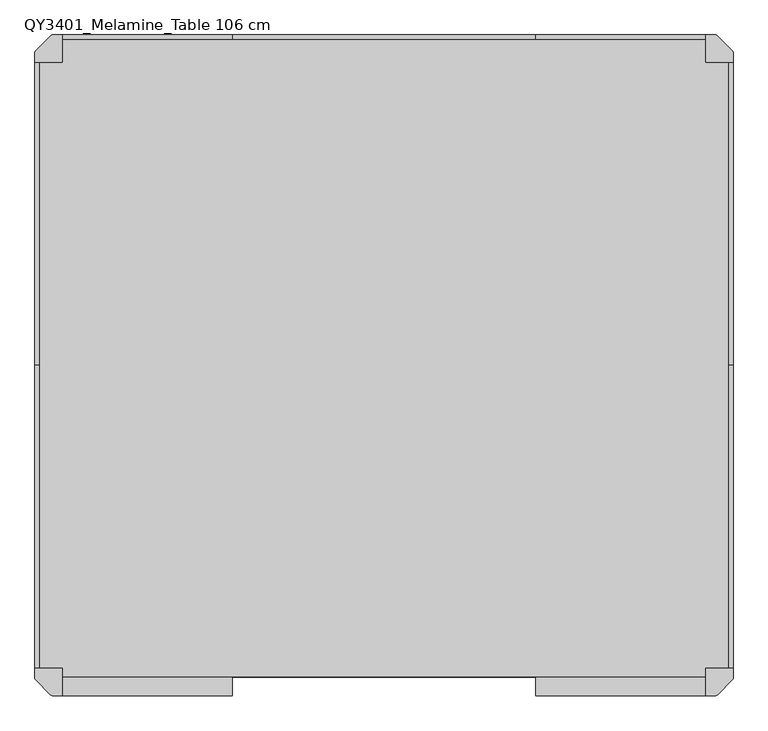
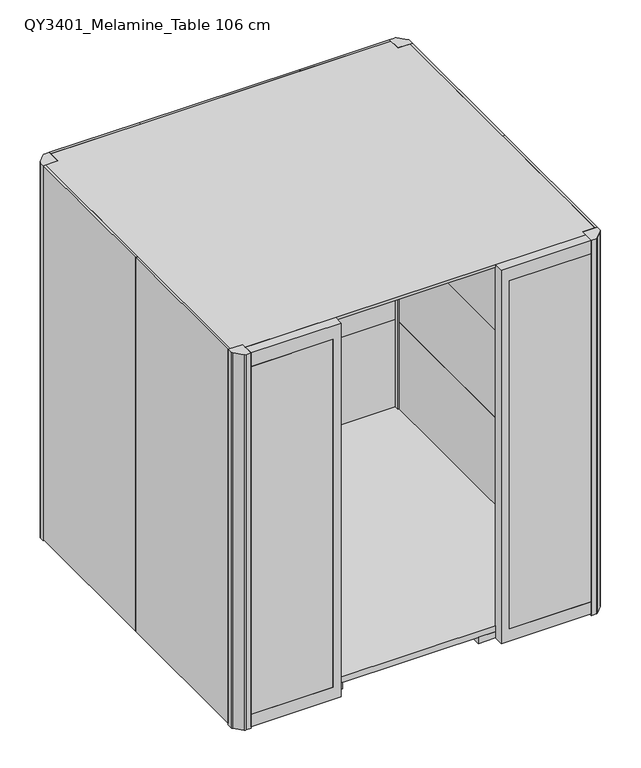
"""IFC4 building model written with IfcOpenShell, lengths in millimetres: furniture geometry, Qyos_400 : QY3401_Melamine_Table 106 cm."""

from ifc_helpers import new_model, si_unit, point, frame, frame_2d, origin, origin_with_axes, place, context, project, spatial, polyline, circle_curve, trimmed, segment, composite_curve, outline, extrude, source, transform, mapped, element, save
from ifc_brep_helpers import plane_surface, cylinder_surface, advanced_brep


def qy3401_melamine_table_106_cm_d2755881(model_context):
    return source(origin(), model_context, "Body", "SolidModel", [
        advanced_brep(
        [(853.8585356, 827.0, 0.0), (900.1414644, 827.0, 0.0), (877.0, 827.0, 0.0), (853.8585356, 827.0, 7.0), (900.1414644, 827.0, 7.0), (867.3615446, 827.0, 7.0), (886.6384554, 827.0, 7.0), (867.3615446, 827.0, 17.0), (886.6384554, 827.0, 17.0), (877.0, 827.0, 17.0)],
        [
            (0, 1, circle_curve(frame((877.0, 827.0, 0.0), z_axis=(0.0, 0.0, -1.0), x_axis=(1.0, 0.0, 0.0)), 23.1414644)),
            (1, 2),
            (2, 0),
            (1, 0, circle_curve(frame((877.0, 827.0, 0.0), z_axis=(0.0, 0.0, -1.0), x_axis=(1.0, 0.0, 0.0)), 23.1414644)),
            (3, 4, circle_curve(frame((877.0, 827.0, 7.0), z_axis=(0.0, 0.0, -1.0), x_axis=(1.0, 0.0, 0.0)), 23.1414644)),
            (4, 1),
            (0, 3),
            (4, 3, circle_curve(frame((877.0, 827.0, 7.0), z_axis=(0.0, 0.0, -1.0), x_axis=(1.0, 0.0, 0.0)), 23.1414644)),
            (5, 6, circle_curve(frame((877.0, 827.0, 7.0), z_axis=(0.0, 0.0, -1.0), x_axis=(1.0, 0.0, 0.0)), 9.6384554)),
            (6, 4),
            (3, 5),
            (6, 5, circle_curve(frame((877.0, 827.0, 7.0), z_axis=(0.0, 0.0, -1.0), x_axis=(1.0, 0.0, 0.0)), 9.6384554)),
            (7, 8, circle_curve(frame((877.0, 827.0, 17.0), z_axis=(0.0, 0.0, -1.0), x_axis=(1.0, 0.0, 0.0)), 9.6384554)),
            (8, 6),
            (5, 7),
            (8, 7, circle_curve(frame((877.0, 827.0, 17.0), z_axis=(0.0, 0.0, -1.0), x_axis=(1.0, 0.0, 0.0)), 9.6384554)),
            (9, 8),
            (7, 9),
        ],
        [
            plane_surface(frame((877.0, 827.0, 0.0), z_axis=(0.0, 0.0, -1.0), x_axis=(1.0, 0.0, 0.0))),
            cylinder_surface(frame((877.0, 827.0, 1997.4144888), z_axis=(0.0, 0.0, 1.0), x_axis=(1.0, 0.0, 0.0)), 23.1414644),
            plane_surface(frame((877.0, 827.0, 7.0), z_axis=(0.0, 0.0, 1.0), x_axis=(1.0, 0.0, 0.0))),
            cylinder_surface(frame((877.0, 827.0, 1997.4144888), z_axis=(0.0, 0.0, 1.0), x_axis=(1.0, 0.0, 0.0)), 9.6384554),
            plane_surface(frame((877.0, 827.0, 17.0), z_axis=(0.0, 0.0, 1.0), x_axis=(1.0, 0.0, 0.0))),
        ],
        [
            (0, [[1, 2, 3]]),
            (0, [[4, -3, -2]]),
            (1, [[5, 6, -1, 7]]),
            (1, [[8, -7, -4, -6]]),
            (2, [[9, 10, -5, 11]]),
            (2, [[12, -11, -8, -10]]),
            (3, [[13, 14, -9, 15]]),
            (3, [[16, -15, -12, -14]]),
            (4, [[17, -13, 18]]),
            (4, [[-18, -16, -17]]),
        ],
    ),
        extrude(outline(composite_curve([segment(trimmed(circle_curve(frame_2d((877.0, 827.0)), 23.1414644), [point((853.8585356, 827.0))], [point((900.1414644, 827.0))], False, "CARTESIAN"), True, "CONTINUOUS"), segment(trimmed(circle_curve(frame_2d((877.0, 827.0)), 23.1414644), [point((900.1414644, 827.0))], [point((853.8585356, 827.0))], False, "CARTESIAN"), True, "CONTINUOUS")], self_intersect=False)), origin_with_axes(), (0.0, 0.0, 1.0), 7.0),
        extrude(outline(composite_curve([segment(polyline([(-945.0, 890.0), (-1025.0, 890.0), (-1025.0, 917.5536246)]), True, "CONTINUOUS"), segment(trimmed(circle_curve(frame_2d((-1013.0024364, 917.3118252)), 12.0), [point((-1025.0, 917.5536246))], [point((-1021.7960176, 925.4771745))], False, "CARTESIAN"), True, "CONTINUOUS"), segment(trimmed(circle_curve(frame_2d((-443.4303831, 388.431197)), 789.2560985), [point((-1021.7960176, 925.4771745))], [point((-980.4763607, 966.7968315))], False, "CARTESIAN"), True, "CONTINUOUS"), segment(trimmed(circle_curve(frame_2d((-972.3110114, 958.0032502)), 12.0), [point((-980.4763607, 966.7968315))], [point((-972.5902872, 970.0))], False, "CARTESIAN"), True, "CONTINUOUS"), segment(polyline([(-972.5902872, 970.0), (-945.0, 970.0), (-945.0, 890.0)]), True, "CONTINUOUS")], self_intersect=False)), origin_with_axes(), (0.0, 0.0, 1.0), 2202.1),
        extrude(outline(composite_curve([segment(polyline([(945.0, 890.0), (945.0, 970.0), (972.5536246, 970.0)]), True, "CONTINUOUS"), segment(trimmed(circle_curve(frame_2d((972.3118252, 958.0024364)), 12.0), [point((972.5536246, 970.0))], [point((980.4771745, 966.7960176))], False, "CARTESIAN"), True, "CONTINUOUS"), segment(trimmed(circle_curve(frame_2d((443.431197, 388.4303831)), 789.2560985), [point((980.4771745, 966.7960176))], [point((1021.7968315, 925.4763607))], False, "CARTESIAN"), True, "CONTINUOUS"), segment(trimmed(circle_curve(frame_2d((1013.0032502, 917.3110114)), 12.0), [point((1021.7968315, 925.4763607))], [point((1025.0, 917.5902872))], False, "CARTESIAN"), True, "CONTINUOUS"), segment(polyline([(1025.0, 917.5902872), (1025.0, 890.0), (945.0, 890.0)]), True, "CONTINUOUS")], self_intersect=False)), origin_with_axes(), (0.0, 0.0, 1.0), 2202.1),
        extrude(outline(composite_curve([segment(polyline([(945.0, -890.0), (1025.0, -890.0), (1025.0, -917.5536246)]), True, "CONTINUOUS"), segment(trimmed(circle_curve(frame_2d((1013.0024364, -917.3118252)), 12.0), [point((1025.0, -917.5536246))], [point((1021.7960176, -925.4771745))], False, "CARTESIAN"), True, "CONTINUOUS"), segment(trimmed(circle_curve(frame_2d((443.4303831, -388.431197)), 789.2560985), [point((1021.7960176, -925.4771745))], [point((980.4763607, -966.7968315))], False, "CARTESIAN"), True, "CONTINUOUS"), segment(trimmed(circle_curve(frame_2d((972.3110114, -958.0032502)), 12.0), [point((980.4763607, -966.7968315))], [point((972.5902872, -970.0))], False, "CARTESIAN"), True, "CONTINUOUS"), segment(polyline([(972.5902872, -970.0), (945.0, -970.0), (945.0, -890.0)]), True, "CONTINUOUS")], self_intersect=False)), origin_with_axes(), (0.0, 0.0, 1.0), 2202.1),
        extrude(outline(composite_curve([segment(polyline([(-945.0, -890.0), (-945.0, -970.0), (-972.5536246, -970.0)]), True, "CONTINUOUS"), segment(trimmed(circle_curve(frame_2d((-972.3118252, -958.0024364)), 12.0), [point((-972.5536246, -970.0))], [point((-980.4771745, -966.7960176))], False, "CARTESIAN"), True, "CONTINUOUS"), segment(trimmed(circle_curve(frame_2d((-443.431197, -388.4303831)), 789.2560985), [point((-980.4771745, -966.7960176))], [point((-1021.7968315, -925.4763607))], False, "CARTESIAN"), True, "CONTINUOUS"), segment(trimmed(circle_curve(frame_2d((-1013.0032502, -917.3110114)), 12.0), [point((-1021.7968315, -925.4763607))], [point((-1025.0, -917.5902872))], False, "CARTESIAN"), True, "CONTINUOUS"), segment(polyline([(-1025.0, -917.5902872), (-1025.0, -890.0), (-945.0, -890.0)]), True, "CONTINUOUS")], self_intersect=False)), origin_with_axes(), (0.0, 0.0, 1.0), 2202.1),
        extrude(outline(polyline([(-445.0, 956.0), (445.0, 956.0), (945.0, 956.0), (945.0, 890.0), (1011.0, 890.0), (1011.0, -890.0), (945.0, -890.0), (945.0, -914.9956819), (-945.0, -914.9956819), (-945.0, -890.0), (-1011.0, -890.0), (-1011.0, 890.0), (-945.0, 890.0), (-945.0, 956.0), (-445.0, 956.0)])), frame((0.0, 0.0, 2186.1), z_axis=(0.0, 0.0, 1.0), x_axis=(1.0, 0.0, 0.0)), (0.0, 0.0, 1.0), 16.0),
        extrude(outline(polyline([(-445.0, 970.0), (-445.0, 956.0), (-945.0, 956.0), (-945.0, 970.0), (-445.0, 970.0)])), frame((0.0, 0.0, 10.0), z_axis=(0.0, 0.0, 1.0), x_axis=(1.0, 0.0, 0.0)), (0.0, 0.0, 1.0), 2192.1),
        extrude(outline(polyline([(945.0, 956.0), (445.0557256, 956.0), (445.0557256, 970.0), (945.0, 970.0), (945.0, 956.0)])), frame((0.0, 0.0, 10.0), z_axis=(0.0, 0.0, 1.0), x_axis=(1.0, 0.0, 0.0)), (0.0, 0.0, 1.0), 2192.1),
        extrude(outline(polyline([(-945.0, 915.0), (-945.0, 934.0), (-445.0, 934.0), (-445.0, 915.0), (-945.0, 915.0)])), frame((0.0, 0.0, 1617.9823403), z_axis=(0.0, 0.0, 1.0), x_axis=(1.0, 0.0, 0.0)), (0.0, 0.0, 1.0), 504.1176597),
        extrude(outline(polyline([(445.0557256, 934.0), (945.0, 934.0), (945.0, 915.0), (445.0557256, 915.0), (445.0557256, 934.0)])), frame((0.0, 0.0, 1617.9823403), z_axis=(0.0, 0.0, 1.0), x_axis=(1.0, 0.0, 0.0)), (0.0, 0.0, 1.0), 504.1176597),
        extrude(outline(polyline([(-945.0, 915.0), (-945.0, 934.0), (-445.0, 934.0), (-445.0, 915.0), (-945.0, 915.0)])), frame((0.0, 0.0, 1106.0116287), z_axis=(0.0, 0.0, 1.0), x_axis=(1.0, 0.0, 0.0)), (0.0, 0.0, 1.0), 511.9707116),
        extrude(outline(polyline([(445.0557256, 934.0), (945.0, 934.0), (945.0, 915.0), (445.0557256, 915.0), (445.0557256, 934.0)])), frame((0.0, 0.0, 1106.0116287), z_axis=(0.0, 0.0, 1.0), x_axis=(1.0, 0.0, 0.0)), (0.0, 0.0, 1.0), 511.9707116),
        extrude(outline(polyline([(-945.0, 915.0), (-945.0, 934.0), (-445.0, 934.0), (-445.0, 915.0), (-945.0, 915.0)])), frame((0.0, 0.0, 593.9823403), z_axis=(0.0, 0.0, 1.0), x_axis=(1.0, 0.0, 0.0)), (0.0, 0.0, 1.0), 512.0292884),
        extrude(outline(polyline([(445.0557256, 934.0), (945.0, 934.0), (945.0, 915.0), (445.0557256, 915.0), (445.0557256, 934.0)])), frame((0.0, 0.0, 593.9823403), z_axis=(0.0, 0.0, 1.0), x_axis=(1.0, 0.0, 0.0)), (0.0, 0.0, 1.0), 512.0292884),
        extrude(outline(polyline([(-945.0, 915.0), (-945.0, 934.0), (-445.0, 934.0), (-445.0, 915.0), (-945.0, 915.0)])), frame((0.0, 0.0, 77.0), z_axis=(0.0, 0.0, 1.0), x_axis=(1.0, 0.0, 0.0)), (0.0, 0.0, 1.0), 516.9823403),
        extrude(outline(polyline([(445.0557256, 934.0), (945.0, 934.0), (945.0, 915.0), (445.0557256, 915.0), (445.0557256, 934.0)])), frame((0.0, 0.0, 77.0), z_axis=(0.0, 0.0, 1.0), x_axis=(1.0, 0.0, 0.0)), (0.0, 0.0, 1.0), 516.9823403),
        extrude(outline(polyline([(-1025.0, -890.0), (-1025.0, 0.0), (-1011.0, 0.0), (-1011.0, -890.0), (-1025.0, -890.0)])), frame((0.0, 0.0, 10.0), z_axis=(0.0, 0.0, 1.0), x_axis=(1.0, 0.0, 0.0)), (0.0, 0.0, 1.0), 2192.1),
        extrude(outline(polyline([(1025.0, -890.0), (1011.0, -890.0), (1011.0, 0.0), (1025.0, 0.0), (1025.0, -890.0)])), frame((0.0, 0.0, 10.0), z_axis=(0.0, 0.0, 1.0), x_axis=(1.0, 0.0, 0.0)), (0.0, 0.0, 1.0), 2192.1),
        extrude(outline(polyline([(-490.0089845, -970.0), (-945.0, -970.0), (-945.0, -965.0), (-490.0089845, -965.0), (-490.0089845, -970.0)])), frame((0.0, 0.0, 82.0), z_axis=(0.0, 0.0, 1.0), x_axis=(1.0, 0.0, 0.0)), (0.0, 0.0, 1.0), 2040.1),
        extrude(outline(polyline([(945.0, -970.0), (490.0089845, -970.0), (490.0089845, -965.0), (945.0, -965.0), (945.0, -970.0)])), frame((0.0, 0.0, 82.0), z_axis=(0.0, 0.0, 1.0), x_axis=(1.0, 0.0, 0.0)), (0.0, 0.0, 1.0), 2040.1),
        extrude(outline(polyline([(-857.0, -914.9956819), (-897.0, -914.9956819), (-897.0, 915.0), (-857.0, 915.0), (-857.0, -914.9956819)])), frame((0.0, 0.0, 10.0), z_axis=(0.0, 0.0, 1.0), x_axis=(1.0, 0.0, 0.0)), (0.0, 0.0, 1.0), 37.0),
        extrude(outline(polyline([(-405.0, -914.9956819), (-445.0, -914.9956819), (-445.0, 915.0), (-405.0, 915.0), (-405.0, -914.9956819)])), frame((0.0, 0.0, 10.0), z_axis=(0.0, 0.0, 1.0), x_axis=(1.0, 0.0, 0.0)), (0.0, 0.0, 1.0), 37.0),
        extrude(outline(polyline([(897.0, -914.9956819), (857.0, -914.9956819), (857.0, 915.0), (897.0, 915.0), (897.0, -914.9956819)])), frame((0.0, 0.0, 10.0), z_axis=(0.0, 0.0, 1.0), x_axis=(1.0, 0.0, 0.0)), (0.0, 0.0, 1.0), 37.0),
        extrude(outline(polyline([(349.5486306, 915.0), (445.0557256, 915.0), (445.0557256, -914.9956819), (349.5486306, -914.9956819), (349.5486306, 915.0)])), frame((0.0, 0.0, 10.0), z_axis=(0.0, 0.0, 1.0), x_axis=(1.0, 0.0, 0.0)), (0.0, 0.0, 1.0), 37.0),
        extrude(outline(polyline([(2122.1, -490.0089845), (82.0, -490.0089845), (82.0, -945.0), (10.0, -945.0), (10.0, -445.0), (2202.1, -445.0), (2202.1, -945.0), (2122.1, -945.0), (2122.1, -490.0089845)])), frame((0.0, -970.0, 0.0), z_axis=(0.0, 1.0, 0.0), x_axis=(0.0, 0.0, 1.0)), (0.0, 0.0, 1.0), 55.0043181),
        extrude(outline(polyline([(2122.1, 490.0089845), (2122.1, 945.0), (2202.1, 945.0), (2202.1, 445.0), (10.0, 445.0), (10.0, 945.0), (82.0, 945.0), (82.0, 490.0089845), (2122.1, 490.0089845)])), frame((0.0, -970.0, 0.0), z_axis=(0.0, 1.0, 0.0), x_axis=(0.0, 0.0, 1.0)), (0.0, 0.0, 1.0), 55.0043181),
        extrude(outline(polyline([(-951.0, 890.0), (-945.0, 890.0), (-945.0, 915.0), (945.0, 915.0), (945.0, 890.0), (951.0, 890.0), (951.0, -890.0), (945.0, -890.0), (945.0, -914.9956819), (-945.0, -914.9956819), (-945.0, -890.0), (-951.0, -890.0), (-951.0, 890.0)])), frame((0.0, 0.0, 47.0), z_axis=(0.0, 0.0, 1.0), x_axis=(1.0, 0.0, 0.0)), (0.0, 0.0, 1.0), 35.0),
        extrude(outline(polyline([(970.0, -889.9498873), (951.0, -889.9498873), (951.0, 890.0024364), (970.0, 890.0024364), (970.0, -889.9498873)])), frame((0.0, 0.0, 1617.9823403), z_axis=(0.0, 0.0, 1.0), x_axis=(1.0, 0.0, 0.0)), (0.0, 0.0, 1.0), 504.1176597),
        extrude(outline(polyline([(-970.0, -890.0), (-970.0, 890.0), (-951.0, 890.0), (-951.0, -890.0), (-970.0, -890.0)])), frame((0.0, 0.0, 1617.9823403), z_axis=(0.0, 0.0, 1.0), x_axis=(1.0, 0.0, 0.0)), (0.0, 0.0, 1.0), 504.1176597),
        extrude(outline(polyline([(-445.0, 915.0), (-445.0, 934.0), (445.0557256, 934.0), (445.0557256, 915.0), (-445.0, 915.0)])), frame((0.0, 0.0, 1617.9823403), z_axis=(0.0, 0.0, 1.0), x_axis=(1.0, 0.0, 0.0)), (0.0, 0.0, 1.0), 504.1176597),
        extrude(outline(polyline([(970.0, -890.0), (951.0, -890.0), (951.0, 890.0), (970.0, 890.0), (970.0, -890.0)])), frame((0.0, 0.0, 1106.0116287), z_axis=(0.0, 0.0, 1.0), x_axis=(1.0, 0.0, 0.0)), (0.0, 0.0, 1.0), 511.9707116),
        extrude(outline(polyline([(-970.0, -890.0), (-970.0, 890.0), (-951.0, 890.0), (-951.0, -890.0), (-970.0, -890.0)])), frame((0.0, 0.0, 1106.0116287), z_axis=(0.0, 0.0, 1.0), x_axis=(1.0, 0.0, 0.0)), (0.0, 0.0, 1.0), 511.9707116),
        extrude(outline(polyline([(-445.0, 915.0), (-445.0, 934.0), (445.0557256, 934.0), (445.0557256, 915.0), (-445.0, 915.0)])), frame((0.0, 0.0, 1106.0116287), z_axis=(0.0, 0.0, 1.0), x_axis=(1.0, 0.0, 0.0)), (0.0, 0.0, 1.0), 511.9707116),
        extrude(outline(polyline([(970.0, -890.0), (951.0, -890.0), (951.0, 890.0), (970.0, 890.0), (970.0, -890.0)])), frame((0.0, 0.0, 593.9823403), z_axis=(0.0, 0.0, 1.0), x_axis=(1.0, 0.0, 0.0)), (0.0, 0.0, 1.0), 512.0292884),
        extrude(outline(polyline([(-970.0, -890.0), (-970.0, 890.0), (-951.0, 890.0), (-951.0, -890.0), (-970.0, -890.0)])), frame((0.0, 0.0, 593.9823403), z_axis=(0.0, 0.0, 1.0), x_axis=(1.0, 0.0, 0.0)), (0.0, 0.0, 1.0), 512.0292884),
        extrude(outline(polyline([(-445.0, 915.0), (-445.0, 934.0), (445.0557256, 934.0), (445.0557256, 915.0), (-445.0, 915.0)])), frame((0.0, 0.0, 593.9823403), z_axis=(0.0, 0.0, 1.0), x_axis=(1.0, 0.0, 0.0)), (0.0, 0.0, 1.0), 512.0292884),
        extrude(outline(polyline([(970.0, -890.0), (951.0, -890.0), (951.0, 890.0), (970.0, 890.0), (970.0, -890.0)])), frame((0.0, 0.0, 77.0), z_axis=(0.0, 0.0, 1.0), x_axis=(1.0, 0.0, 0.0)), (0.0, 0.0, 1.0), 516.9823403),
        extrude(outline(polyline([(-970.0, -890.0), (-970.0, 890.0), (-951.0, 890.0), (-951.0, -890.0), (-970.0, -890.0)])), frame((0.0, 0.0, 77.0), z_axis=(0.0, 0.0, 1.0), x_axis=(1.0, 0.0, 0.0)), (0.0, 0.0, 1.0), 516.9823403),
        extrude(outline(polyline([(-445.0, 915.0), (-445.0, 934.0), (445.0557256, 934.0), (445.0557256, 915.0), (-445.0, 915.0)])), frame((0.0, 0.0, 77.0), z_axis=(0.0, 0.0, 1.0), x_axis=(1.0, 0.0, 0.0)), (0.0, 0.0, 1.0), 516.9823403),
        extrude(outline(polyline([(-1025.0, 0.0), (-1025.0, 890.0), (-1011.0, 890.0), (-1011.0, 0.0), (-1025.0, 0.0)])), frame((0.0, 0.0, 10.0), z_axis=(0.0, 0.0, 1.0), x_axis=(1.0, 0.0, 0.0)), (0.0, 0.0, 1.0), 2192.1),
        extrude(outline(polyline([(1025.0, 0.0), (1011.0, 0.0), (1011.0, 890.0), (1025.0, 890.0), (1025.0, 0.0)])), frame((0.0, 0.0, 10.0), z_axis=(0.0, 0.0, 1.0), x_axis=(1.0, 0.0, 0.0)), (0.0, 0.0, 1.0), 2192.1),
        extrude(outline(polyline([(445.0557256, 970.0), (445.0557256, 956.0), (-445.0, 956.0), (-445.0, 970.0), (445.0557256, 970.0)])), frame((0.0, 0.0, 10.0), z_axis=(0.0, 0.0, 1.0), x_axis=(1.0, 0.0, 0.0)), (0.0, 0.0, 1.0), 2192.1),
    ])


if __name__ == "__main__":
    model = new_model("IFC4")
    model_context = context("Model", 3, world=origin())
    ifc_project = project(units=[si_unit("LENGTHUNIT", "METRE", prefix="MILLI")], contexts=[model_context])
    site = spatial("IfcSite", under=ifc_project)
    building = spatial("IfcBuilding", under=site)
    placement = place(None, origin())
    qy3401_melamine_table_106_cm_shape = qy3401_melamine_table_106_cm_d2755881(model_context)
    element("IfcFurniture", 1, ObjectType="Qyos_400 : QY3401_Melamine_Table 106 cm", at=placement, inside=building, context=model_context, shape_type="MappedRepresentation", body=[
        mapped(qy3401_melamine_table_106_cm_shape, transform((0.0, 0.0, 0.0), x_axis=(1.0, 0.0, 0.0), y_axis=(0.0, 1.0, 0.0), z_axis=(0.0, 0.0, 1.0))),
    ])
    save(model, "model.ifc")
